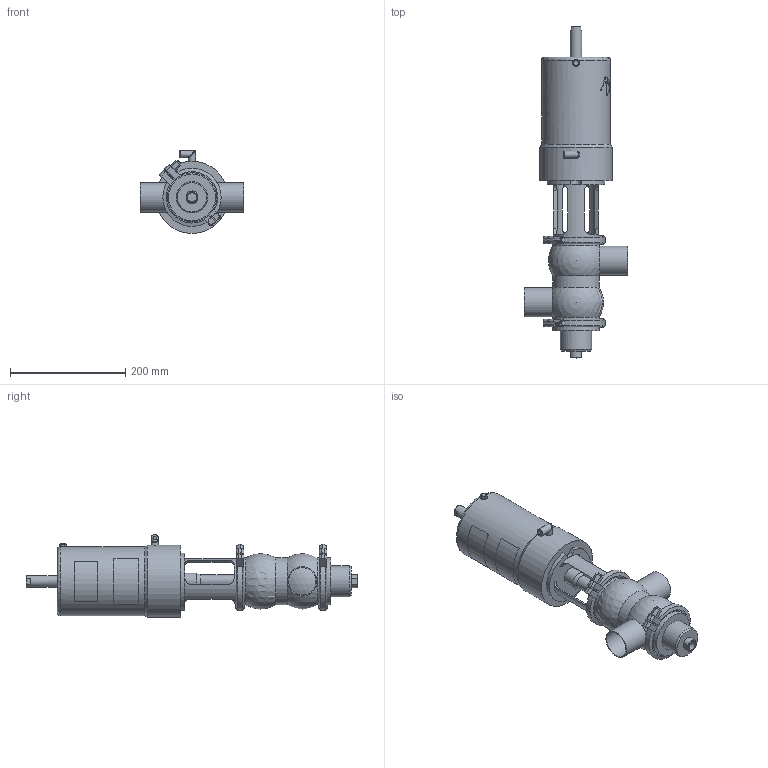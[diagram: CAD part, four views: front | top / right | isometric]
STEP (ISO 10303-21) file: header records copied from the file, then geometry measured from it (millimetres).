
FILE_DESCRIPTION (( 'STEP AP214' ), '1' );
FILE_NAME ('INNOVA S DC-180 W OD 2_10.251.16.0009.STEP', '2024-08-20T10:25:22', ( '' ), ( '' ), 'SwSTEP 2.0', 'SolidWorks 2023', '' );
FILE_SCHEMA (( 'AUTOMOTIVE_DESIGN' ));
Length unit declared in the file: millimetre
Products named in the file (6): 10.251.15.0011_OD 2"; 10.251.15.0002_DN 2"; INNOVA S DC-180 W OD 2_10.251.16.0009; 10.240.15.0001_DN 050; 10.250.15.0002_Type S T1; 10.251.15.0001_OD 2"
Assembly tree (6 placements, depth 2):
  INNOVA S DC-180 W OD 2_10.251.16.0009
    10.251.15.0001_OD 2"
    10.250.15.0002_Type S T1
    10.251.15.0011_OD 2"
    10.240.15.0001_DN 050  x2
    10.251.15.0002_DN 2"
Bounding box: 180 x 575 x 143.5 mm (x, y, z)
Volume: 3800938.3 mm3; surface area: 310710 mm2
Topology: 6 solids, 6 shells, 421 faces, 1092 edges, 709 vertices
Faces by surface type: plane 201, cylinder 108, bspline 80, cone 27, sphere 4, torus 1
Full cylindrical faces by diameter (mm): 4.2 x2, 5 x1, 6 x1, 6.15 x1, 8 x4, 8.5 x1, 10.5 x2, 12.5 x6, 16 x1, 20 x1, 23 x1, 28 x1, 47.5 x2, 50.8 x2, 54 x1, 78 x1, 81 x4, 93 x4, 119.5 x1, 125 x1
Entity records: 21091 total; most frequent: CARTESIAN_POINT 11038, ORIENTED_EDGE 1724, DIRECTION 1343, EDGE_CURVE 862, VERTEX_POINT 589, AXIS2_PLACEMENT_3D 513, EDGE_LOOP 449, FACE_OUTER_BOUND 402
